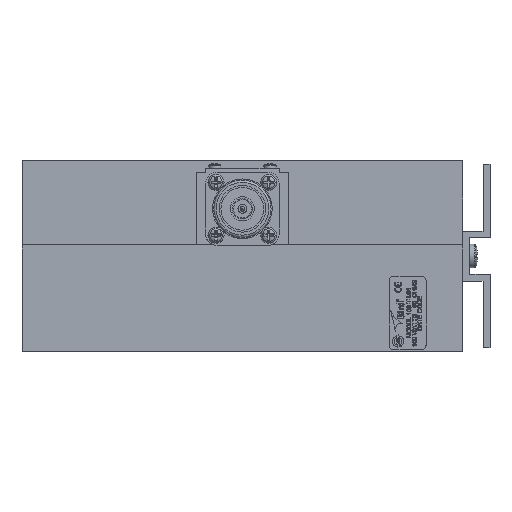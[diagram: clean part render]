
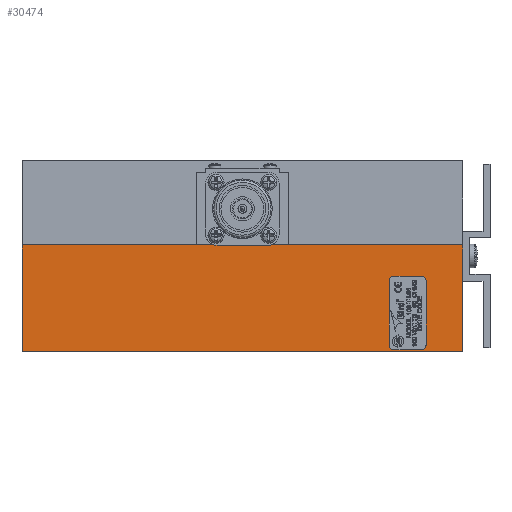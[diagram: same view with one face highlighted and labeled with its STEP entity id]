
A CAD part, front view. The second image highlights one B-rep face of the part: STEP entity #30474.
In plain terms, the highlighted planar face has unit normal (0, -1, 0).
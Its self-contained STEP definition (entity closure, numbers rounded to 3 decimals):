
#960=CIRCLE('',#31741,3.969);
#961=CIRCLE('',#31742,3.969);
#962=CIRCLE('',#31743,1.575);
#963=CIRCLE('',#31744,1.575);
#964=CIRCLE('',#31745,1.575);
#965=CIRCLE('',#31746,1.575);
#2269=ORIENTED_EDGE('',*,*,#8358,.T.);
#2270=ORIENTED_EDGE('',*,*,#8359,.T.);
#2271=ORIENTED_EDGE('',*,*,#8360,.F.);
#2272=ORIENTED_EDGE('',*,*,#8095,.F.);
#2273=ORIENTED_EDGE('',*,*,#8357,.T.);
#2274=ORIENTED_EDGE('',*,*,#8361,.T.);
#2275=ORIENTED_EDGE('',*,*,#8362,.F.);
#2276=ORIENTED_EDGE('',*,*,#8363,.T.);
#2277=ORIENTED_EDGE('',*,*,#8364,.F.);
#2278=ORIENTED_EDGE('',*,*,#8365,.T.);
#2279=ORIENTED_EDGE('',*,*,#8366,.F.);
#2280=ORIENTED_EDGE('',*,*,#8367,.T.);
#2281=ORIENTED_EDGE('',*,*,#8368,.F.);
#2282=ORIENTED_EDGE('',*,*,#8369,.T.);
#2283=ORIENTED_EDGE('',*,*,#8370,.F.);
#2284=ORIENTED_EDGE('',*,*,#8371,.T.);
#8095=EDGE_CURVE('',#11270,#11271,#13526,.T.);
#8357=EDGE_CURVE('',#11270,#11442,#13786,.T.);
#8358=EDGE_CURVE('',#11443,#11444,#13787,.T.);
#8359=EDGE_CURVE('',#11444,#11445,#960,.T.);
#8360=EDGE_CURVE('',#11271,#11445,#13788,.T.);
#8361=EDGE_CURVE('',#11442,#11446,#13789,.T.);
#8362=EDGE_CURVE('',#11447,#11446,#13790,.T.);
#8363=EDGE_CURVE('',#11447,#11443,#961,.T.);
#8364=EDGE_CURVE('',#11448,#11449,#13791,.T.);
#8365=EDGE_CURVE('',#11448,#11450,#962,.T.);
#8366=EDGE_CURVE('',#11451,#11450,#13792,.T.);
#8367=EDGE_CURVE('',#11451,#11452,#963,.T.);
#8368=EDGE_CURVE('',#11453,#11452,#13793,.T.);
#8369=EDGE_CURVE('',#11453,#11454,#964,.T.);
#8370=EDGE_CURVE('',#11455,#11454,#13794,.T.);
#8371=EDGE_CURVE('',#11455,#11449,#965,.T.);
#11270=VERTEX_POINT('',#39126);
#11271=VERTEX_POINT('',#39128);
#11442=VERTEX_POINT('',#39646);
#11443=VERTEX_POINT('',#39650);
#11444=VERTEX_POINT('',#39651);
#11445=VERTEX_POINT('',#39653);
#11446=VERTEX_POINT('',#39656);
#11447=VERTEX_POINT('',#39658);
#11448=VERTEX_POINT('',#39661);
#11449=VERTEX_POINT('',#39662);
#11450=VERTEX_POINT('',#39664);
#11451=VERTEX_POINT('',#39666);
#11452=VERTEX_POINT('',#39668);
#11453=VERTEX_POINT('',#39670);
#11454=VERTEX_POINT('',#39672);
#11455=VERTEX_POINT('',#39674);
#13526=LINE('',#39127,#15691);
#13786=LINE('',#39647,#15951);
#13787=LINE('',#39649,#15952);
#13788=LINE('',#39654,#15953);
#13789=LINE('',#39655,#15954);
#13790=LINE('',#39657,#15955);
#13791=LINE('',#39660,#15956);
#13792=LINE('',#39665,#15957);
#13793=LINE('',#39669,#15958);
#13794=LINE('',#39673,#15959);
#15691=VECTOR('',#33595,1000.);
#15951=VECTOR('',#34031,1000.);
#15952=VECTOR('',#34034,1000.);
#15953=VECTOR('',#34037,1000.);
#15954=VECTOR('',#34038,1000.);
#15955=VECTOR('',#34039,1000.);
#15956=VECTOR('',#34042,1000.);
#15957=VECTOR('',#34045,1000.);
#15958=VECTOR('',#34048,1000.);
#15959=VECTOR('',#34051,1000.);
#17798=EDGE_LOOP('',(#2269,#2270,#2271,#2272,#2273,#2274,#2275,#2276));
#17799=EDGE_LOOP('',(#2277,#2278,#2279,#2280,#2281,#2282,#2283,#2284));
#19259=FACE_BOUND('',#17798,.T.);
#19260=FACE_BOUND('',#17799,.T.);
#20719=PLANE('',#31740);
#30474=ADVANCED_FACE('',(#19259,#19260),#20719,.F.);
#31740=AXIS2_PLACEMENT_3D('',#39648,#34032,#34033);
#31741=AXIS2_PLACEMENT_3D('',#39652,#34035,#34036);
#31742=AXIS2_PLACEMENT_3D('',#39659,#34040,#34041);
#31743=AXIS2_PLACEMENT_3D('',#39663,#34043,#34044);
#31744=AXIS2_PLACEMENT_3D('',#39667,#34046,#34047);
#31745=AXIS2_PLACEMENT_3D('',#39671,#34049,#34050);
#31746=AXIS2_PLACEMENT_3D('',#39675,#34052,#34053);
#33595=DIRECTION('',(0.,0.,1.));
#34031=DIRECTION('',(1.,0.,0.));
#34032=DIRECTION('',(0.,1.,0.));
#34033=DIRECTION('',(0.,0.,1.));
#34034=DIRECTION('',(-1.,0.,0.));
#34035=DIRECTION('',(0.,1.,0.));
#34036=DIRECTION('',(0.,0.,1.));
#34037=DIRECTION('',(1.,0.,0.));
#34038=DIRECTION('',(0.,0.,1.));
#34039=DIRECTION('',(1.,0.,0.));
#34040=DIRECTION('',(0.,1.,0.));
#34041=DIRECTION('',(0.,0.,1.));
#34042=DIRECTION('',(-1.,0.,0.));
#34043=DIRECTION('',(0.,1.,0.));
#34044=DIRECTION('',(0.,0.,1.));
#34045=DIRECTION('',(0.,0.,1.));
#34046=DIRECTION('',(0.,1.,0.));
#34047=DIRECTION('',(0.,0.,1.));
#34048=DIRECTION('',(1.,0.,0.));
#34049=DIRECTION('',(0.,1.,0.));
#34050=DIRECTION('',(0.,0.,1.));
#34051=DIRECTION('',(0.,0.,-1.));
#34052=DIRECTION('',(0.,1.,0.));
#34053=DIRECTION('',(0.,0.,1.));
#39126=CARTESIAN_POINT('',(-152.4,-0.025,-36.83));
#39127=CARTESIAN_POINT('',(-152.4,-0.025,-36.83));
#39128=CARTESIAN_POINT('',(-152.4,-0.025,0.));
#39646=CARTESIAN_POINT('',(0.,-0.025,-36.83));
#39647=CARTESIAN_POINT('',(-152.4,-0.025,-36.83));
#39648=CARTESIAN_POINT('',(-152.4,-0.025,-36.83));
#39649=CARTESIAN_POINT('',(-152.4,-0.025,-0.19));
#39650=CARTESIAN_POINT('',(-67.469,-0.025,-0.19));
#39651=CARTESIAN_POINT('',(-84.931,-0.025,-0.19));
#39652=CARTESIAN_POINT('',(-84.931,-0.025,3.778));
#39653=CARTESIAN_POINT('',(-86.146,-0.025,0.));
#39654=CARTESIAN_POINT('',(-152.4,-0.025,0.));
#39655=CARTESIAN_POINT('',(0.,-0.025,-36.83));
#39656=CARTESIAN_POINT('',(0.,-0.025,0.));
#39657=CARTESIAN_POINT('',(-152.4,-0.025,0.));
#39658=CARTESIAN_POINT('',(-66.254,-0.025,0.));
#39659=CARTESIAN_POINT('',(-67.469,-0.025,3.778));
#39660=CARTESIAN_POINT('',(-12.7,-0.025,-10.795));
#39661=CARTESIAN_POINT('',(-14.275,-0.025,-10.795));
#39662=CARTESIAN_POINT('',(-23.825,-0.025,-10.795));
#39663=CARTESIAN_POINT('',(-14.275,-0.025,-12.37));
#39664=CARTESIAN_POINT('',(-12.7,-0.025,-12.37));
#39665=CARTESIAN_POINT('',(-12.7,-0.025,-36.195));
#39666=CARTESIAN_POINT('',(-12.7,-0.025,-34.62));
#39667=CARTESIAN_POINT('',(-14.275,-0.025,-34.62));
#39668=CARTESIAN_POINT('',(-14.275,-0.025,-36.195));
#39669=CARTESIAN_POINT('',(-25.4,-0.025,-36.195));
#39670=CARTESIAN_POINT('',(-23.825,-0.025,-36.195));
#39671=CARTESIAN_POINT('',(-23.825,-0.025,-34.62));
#39672=CARTESIAN_POINT('',(-25.4,-0.025,-34.62));
#39673=CARTESIAN_POINT('',(-25.4,-0.025,-10.795));
#39674=CARTESIAN_POINT('',(-25.4,-0.025,-12.37));
#39675=CARTESIAN_POINT('',(-23.825,-0.025,-12.37));
